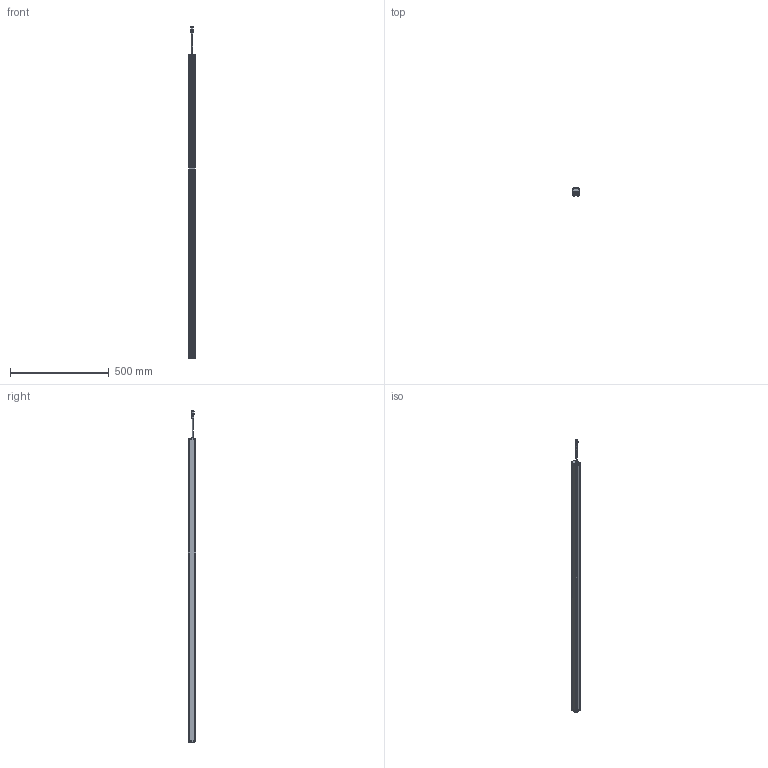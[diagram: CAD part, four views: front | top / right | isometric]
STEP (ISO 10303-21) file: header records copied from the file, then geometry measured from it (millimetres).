
FILE_DESCRIPTION((''),'2;1');
FILE_NAME('PRT0038','2026-03-31T13:51:31',('Administrator'),(''),'CREO PARAMETRIC BY PTC INC, 2016510','CREO PARAMETRIC BY PTC INC, 2016510','');
FILE_SCHEMA(('AUTOMOTIVE_DESIGN { 1 0 10303 214 1 1 1 1 }'));
Length unit declared in the file: millimetre
Products named in the file (1): PRT0038
Bounding box: 33 x 38 x 1681.9 mm (x, y, z)
Surface area: 334183.7 mm2 (no closed solid volume)
Topology: 0 solids, 12 shells, 801 faces, 2107 edges, 1329 vertices
Faces by surface type: plane 384, cylinder 229, extrusion 86, sphere 36, torus 34, cone 28, bspline 4
Entity records: 31375 total; most frequent: CARTESIAN_POINT 5885, ORIENTED_EDGE 4118, DIRECTION 3907, EDGE_CURVE 2059, VERTEX_POINT 1329, AXIS2_PLACEMENT_3D 1325, VECTOR 1257, LINE 1171
